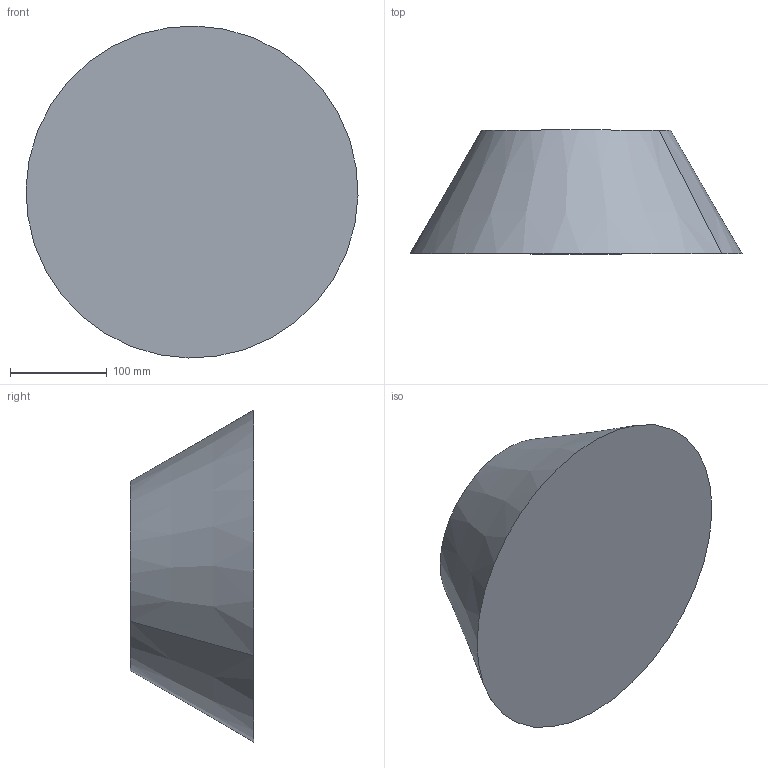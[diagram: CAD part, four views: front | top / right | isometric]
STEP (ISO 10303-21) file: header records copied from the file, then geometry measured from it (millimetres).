
FILE_DESCRIPTION(('CATIA V5 STEP Exchange'),'2;1');
FILE_NAME('C:\_Andres\UNIVERSIDAD\IQS\ASIGNATURAS\DAO\EXF\EXF-16172c\2inicio\Ribera_Armengol_Ej09_v28.stp','2017-03-05T22:13:14+00:00',('none'),('none'),'CATIA Version 5-6 Release 2014 SP1 HF18','CATIA V5 STEP AP203','none');
FILE_SCHEMA(('CONFIG_CONTROL_DESIGN'));
Length unit declared in the file: millimetre
Products named in the file (1): Ribera_Armengol_Ej09_v28
Bounding box: 343.9 x 128 x 343.9 mm (x, y, z)
Volume: 7509248.8 mm3; surface area: 250788.8 mm2
Topology: 1 solids, 2 shells, 8 faces, 12 edges, 8 vertices
Faces by surface type: plane 4, cone 2, cylinder 2
Entity records: 205 total; most frequent: CARTESIAN_POINT 27, DIRECTION 24, ORIENTED_EDGE 24, AXIS2_PLACEMENT_3D 15, EDGE_CURVE 12, ADVANCED_FACE 8, CIRCLE 8, EDGE_LOOP 8
